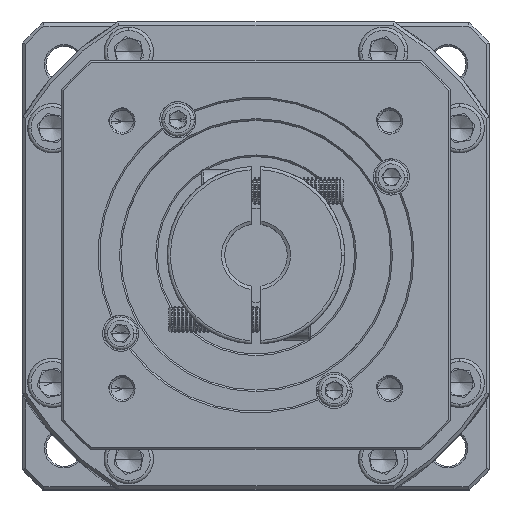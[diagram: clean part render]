
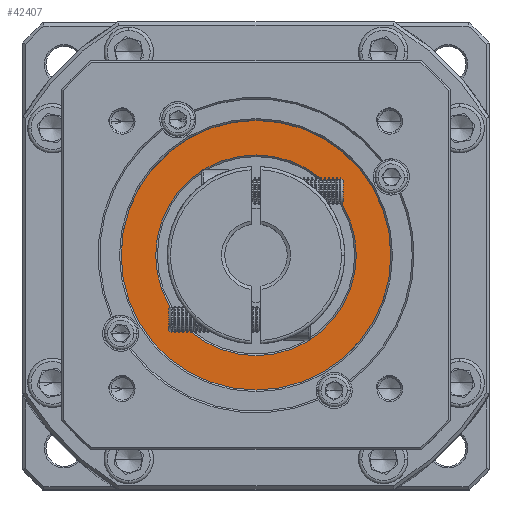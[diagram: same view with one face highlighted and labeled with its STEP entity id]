
A CAD part, top view. The second image highlights one B-rep face of the part: STEP entity #42407.
In plain terms, the highlighted planar face has unit normal (0, 0, 1).
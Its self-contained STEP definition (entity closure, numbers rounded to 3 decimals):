
#2480 = ORIENTED_EDGE ( 'NONE', *, *, #104307, .T. ) ;
#4604 = FACE_OUTER_BOUND ( 'NONE', #20340, .T. ) ;
#7002 = VERTEX_POINT ( 'NONE', #8839 ) ;
#7802 = CARTESIAN_POINT ( 'NONE',  ( -118.929, 61.22, -2.092 ) ) ;
#8839 = CARTESIAN_POINT ( 'NONE',  ( -118.929, 0.22, -2.092 ) ) ;
#11722 = CARTESIAN_POINT ( 'NONE',  ( -159.929, 30.72, -2.092 ) ) ;
#12302 = CIRCLE ( 'NONE', #109329, 30.5 ) ;
#14227 = AXIS2_PLACEMENT_3D ( 'NONE', #69509, #40052, #80482 ) ;
#18532 = EDGE_LOOP ( 'NONE', ( #112635, #2480 ) ) ;
#18630 = DIRECTION ( 'NONE',  ( 1., 0., 0. ) ) ;
#20340 = EDGE_LOOP ( 'NONE', ( #34211, #61176 ) ) ;
#24861 = PLANE ( 'NONE',  #81772 ) ;
#31233 = DIRECTION ( 'NONE',  ( 0., -1., 0. ) ) ;
#34211 = ORIENTED_EDGE ( 'NONE', *, *, #40584, .T. ) ;
#37267 = AXIS2_PLACEMENT_3D ( 'NONE', #69548, #48841, #119179 ) ;
#40052 = DIRECTION ( 'NONE',  ( 0., 0., 1. ) ) ;
#40584 = EDGE_CURVE ( 'NONE', #75778, #84031, #119624, .T. ) ;
#42407 = ADVANCED_FACE ( 'NONE', ( #4604, #51660 ), #24861, .T. ) ;
#43292 = EDGE_CURVE ( 'NONE', #7002, #49053, #93970, .T. ) ;
#48841 = DIRECTION ( 'NONE',  ( 0., 0., -1. ) ) ;
#49053 = VERTEX_POINT ( 'NONE', #7802 ) ;
#51660 = FACE_BOUND ( 'NONE', #18532, .T. ) ;
#58906 = CARTESIAN_POINT ( 'NONE',  ( -118.929, 30.72, -2.092 ) ) ;
#61176 = ORIENTED_EDGE ( 'NONE', *, *, #129192, .T. ) ;
#67956 = DIRECTION ( 'NONE',  ( 0., 0., 1. ) ) ;
#69195 = CARTESIAN_POINT ( 'NONE',  ( -118.929, 30.72, -2.092 ) ) ;
#69509 = CARTESIAN_POINT ( 'NONE',  ( -118.929, 30.72, -2.092 ) ) ;
#69548 = CARTESIAN_POINT ( 'NONE',  ( -118.929, 30.72, -2.092 ) ) ;
#75778 = VERTEX_POINT ( 'NONE', #124804 ) ;
#80482 = DIRECTION ( 'NONE',  ( 1., 0., 0. ) ) ;
#81772 = AXIS2_PLACEMENT_3D ( 'NONE', #125885, #67956, #98254 ) ;
#84031 = VERTEX_POINT ( 'NONE', #11722 ) ;
#93970 = CIRCLE ( 'NONE', #37267, 30.5 ) ;
#98254 = DIRECTION ( 'NONE',  ( 1., 0., 0. ) ) ;
#104307 = EDGE_CURVE ( 'NONE', #49053, #7002, #12302, .T. ) ;
#107406 = DIRECTION ( 'NONE',  ( 0., 0., 1. ) ) ;
#109329 = AXIS2_PLACEMENT_3D ( 'NONE', #58906, #112090, #31233 ) ;
#112090 = DIRECTION ( 'NONE',  ( 0., 0., -1. ) ) ;
#112635 = ORIENTED_EDGE ( 'NONE', *, *, #43292, .T. ) ;
#119179 = DIRECTION ( 'NONE',  ( 0., -1., 0. ) ) ;
#119624 = CIRCLE ( 'NONE', #14227, 41. ) ;
#124804 = CARTESIAN_POINT ( 'NONE',  ( -77.929, 30.72, -2.092 ) ) ;
#125885 = CARTESIAN_POINT ( 'NONE',  ( -118.929, 30.72, -2.092 ) ) ;
#127992 = AXIS2_PLACEMENT_3D ( 'NONE', #69195, #107406, #18630 ) ;
#129192 = EDGE_CURVE ( 'NONE', #84031, #75778, #129685, .T. ) ;
#129685 = CIRCLE ( 'NONE', #127992, 41. ) ;
